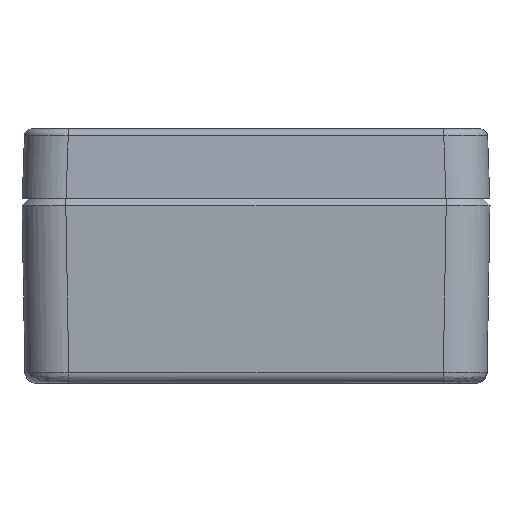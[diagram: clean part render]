
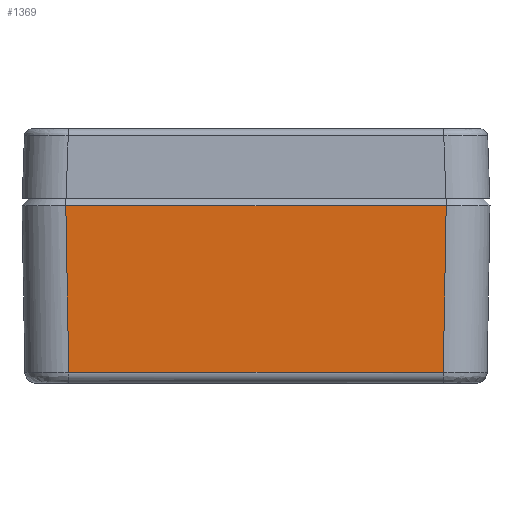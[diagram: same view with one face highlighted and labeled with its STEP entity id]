
A CAD part, left-side view. The second image highlights one B-rep face of the part: STEP entity #1369.
In plain terms, the highlighted planar face has unit normal (-1, 0, -0.018).
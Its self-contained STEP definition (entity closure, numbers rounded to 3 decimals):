
#15 = VECTOR ( 'NONE', #10770, 1000. ) ;
#45 = DIRECTION ( 'NONE',  ( 0., -1., 0. ) ) ;
#83 = VERTEX_POINT ( 'NONE', #19580 ) ;
#1369 = ADVANCED_FACE ( 'NONE', ( #10098 ), #2026, .F. ) ;
#1641 = EDGE_CURVE ( 'NONE', #83, #8835, #14047, .T. ) ;
#1915 = VERTEX_POINT ( 'NONE', #7318 ) ;
#2026 = PLANE ( 'NONE',  #8067 ) ;
#3488 = EDGE_CURVE ( 'NONE', #5321, #1915, #11679, .T. ) ;
#4011 = DIRECTION ( 'NONE',  ( 1., 0., 0.017 ) ) ;
#4954 = CARTESIAN_POINT ( 'NONE',  ( -75.033, 26.033, -1. ) ) ;
#5321 = VERTEX_POINT ( 'NONE', #12533 ) ;
#5759 = EDGE_CURVE ( 'NONE', #8835, #5321, #18320, .T. ) ;
#6166 = ORIENTED_EDGE ( 'NONE', *, *, #20359, .F. ) ;
#7318 = CARTESIAN_POINT ( 'NONE',  ( -74.634, -25.635, -23.826 ) ) ;
#7820 = DIRECTION ( 'NONE',  ( -0.017, 0.017, 1. ) ) ;
#8067 = AXIS2_PLACEMENT_3D ( 'NONE', #19864, #4011, #8884 ) ;
#8467 = LINE ( 'NONE', #18671, #15 ) ;
#8835 = VERTEX_POINT ( 'NONE', #4954 ) ;
#8884 = DIRECTION ( 'NONE',  ( 0.017, 0., -1. ) ) ;
#10098 = FACE_OUTER_BOUND ( 'NONE', #16736, .T. ) ;
#10596 = ORIENTED_EDGE ( 'NONE', *, *, #1641, .F. ) ;
#10770 = DIRECTION ( 'NONE',  ( 0., 1., 0. ) ) ;
#11679 = LINE ( 'NONE', #13743, #19850 ) ;
#12533 = CARTESIAN_POINT ( 'NONE',  ( -75.033, -26.033, -1. ) ) ;
#13004 = ORIENTED_EDGE ( 'NONE', *, *, #5759, .F. ) ;
#13743 = CARTESIAN_POINT ( 'NONE',  ( -75.033, -26.033, -1. ) ) ;
#14002 = DIRECTION ( 'NONE',  ( 0.017, 0.017, -1. ) ) ;
#14047 = LINE ( 'NONE', #14096, #19011 ) ;
#14096 = CARTESIAN_POINT ( 'NONE',  ( -74.829, 25.83, -12.65 ) ) ;
#15185 = ORIENTED_EDGE ( 'NONE', *, *, #3488, .F. ) ;
#16736 = EDGE_LOOP ( 'NONE', ( #10596, #6166, #15185, #13004 ) ) ;
#18320 = LINE ( 'NONE', #19229, #19302 ) ;
#18671 = CARTESIAN_POINT ( 'NONE',  ( -74.634, -0.074, -23.826 ) ) ;
#19011 = VECTOR ( 'NONE', #7820, 1000. ) ;
#19229 = CARTESIAN_POINT ( 'NONE',  ( -75.033, 0., -1. ) ) ;
#19302 = VECTOR ( 'NONE', #45, 1000. ) ;
#19580 = CARTESIAN_POINT ( 'NONE',  ( -74.634, 25.635, -23.826 ) ) ;
#19850 = VECTOR ( 'NONE', #14002, 1000. ) ;
#19864 = CARTESIAN_POINT ( 'NONE',  ( -75.05, 0., 0. ) ) ;
#20359 = EDGE_CURVE ( 'NONE', #1915, #83, #8467, .T. ) ;
